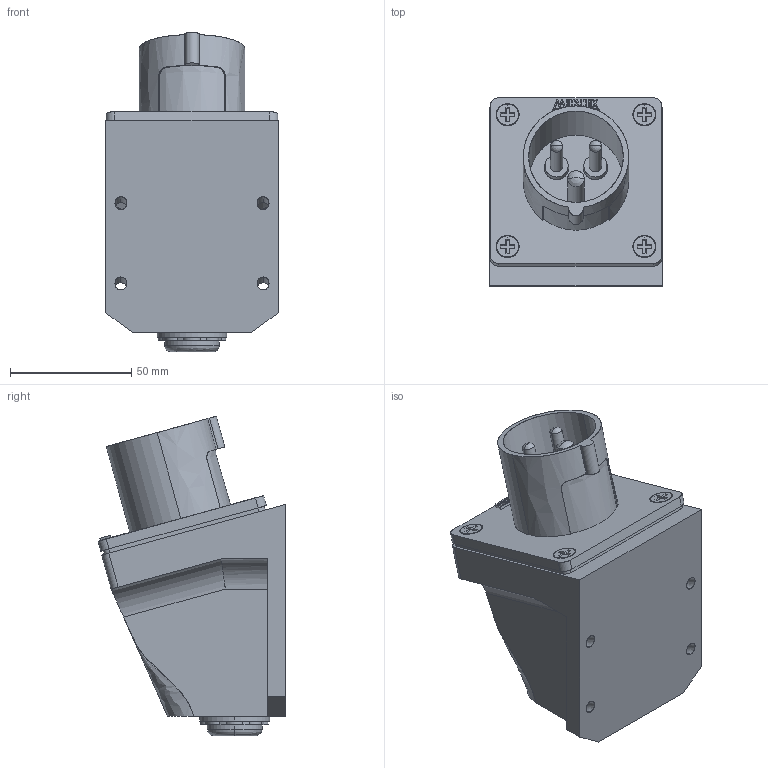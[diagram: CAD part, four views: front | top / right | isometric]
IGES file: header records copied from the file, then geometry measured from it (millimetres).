
Start section: SolidWorks IGES file using analytic representation for surfaces
Global section: file name: D:\X - Arquivos\PROEX\Empresas\P11 - METALTEX\01 - Produtos\IGES\4ª remessa\2ª etapa\TLM16432.IGS; native system: SolidWorks 2012; preprocessor: SolidWorks 2012; author: Usuario; date: 180405.175137; units: millimetre
Bounding box: 71 x 77.37 x 131.48 mm (x, y, z)
Surface area: 65342.2 mm2 (no closed solid volume)
Topology: 0 solids, 0 shells, 541 faces, 8268 edges, 8263 vertices
Faces by surface type: bspline 330, revolution 211
